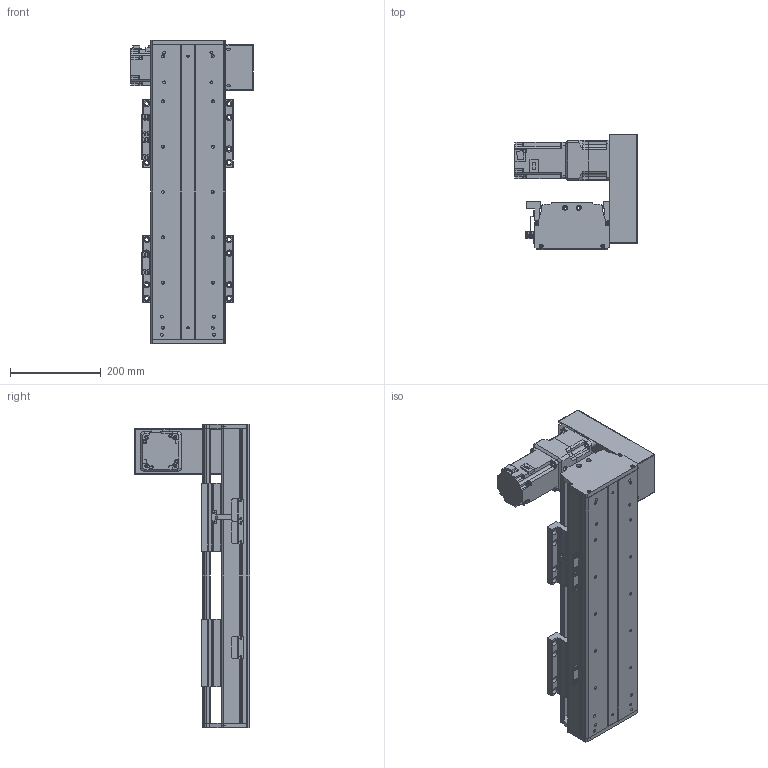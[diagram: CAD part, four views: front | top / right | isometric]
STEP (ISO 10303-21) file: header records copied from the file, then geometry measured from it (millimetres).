
FILE_DESCRIPTION(/* description */ (''),/* implementation_level */ '2;1');
FILE_NAME(/* name */ 'C:\Users\PC\Desktop\3D도면\STEP\새 폴더\DSB165-UR7G-W0300-L.stp',/* time_stamp */ '2018-06-25T15:12:48+09:00',/* author */ ('PC'),/* organization */ (''),/* preprocessor_version */ 'ST-DEVELOPER v16.5',/* originating_system */ 'Autodesk Inventor 2017',/* authorisation */ '');
FILE_SCHEMA (('AUTOMOTIVE_DESIGN { 1 0 10303 214 3 1 1 }'));
Length unit declared in the file: millimetre
Products named in the file (12): DSB165-UL7G-W0300-R_MIR; DSB165-BASE-L_MIR; hg-kr73__MIR; ab0901-p0401300102_MIR; 11-DSB165 BELT COVER_MIR; 12-DSB165-REAR COVER_MIR; 14-DSB165-FRONT COVER_MIR; DSB165-UP COVER_MIR; DSR165-SENSOR DOG_MIR; pm-y65_step_MIR; SENSOR BRACKET(EE-SX674A)_MIR; DSB165-TABLE(MSB20S)_MIR
Assembly tree (16 placements, depth 2):
  DSB165-UL7G-W0300-R_MIR
    DSB165-BASE-L_MIR
    hg-kr73__MIR
    ab0901-p0401300102_MIR
    11-DSB165 BELT COVER_MIR
    12-DSB165-REAR COVER_MIR
    14-DSB165-FRONT COVER_MIR
    DSB165-UP COVER_MIR
    DSR165-SENSOR DOG_MIR
    pm-y65_step_MIR  x3
    SENSOR BRACKET(EE-SX674A)_MIR  x3
    DSB165-TABLE(MSB20S)_MIR  x2
Bounding box: 270 x 254 x 670 mm (x, y, z)
Volume: 5669023.6 mm3; surface area: 1291620 mm2
Topology: 17 solids, 17 shells, 1625 faces, 4376 edges, 2890 vertices
Faces by surface type: plane 921, cylinder 598, cone 94, sphere 8, torus 4
Full cylindrical faces by diameter (mm): 2.459 x20, 3.5 x6, 4.134 x34, 4.5 x18, 5 x27, 5.5 x36, 5.9 x4, 6 x4, 6.6 x14, 6.647 x30, 6.8 x1, 7 x4, 7.6 x4, 8.4 x1, 8.5 x24, 8.7 x1, 9.5 x32, 11 x6, 14 x16, 19 x1, 22 x1, 24 x1, 25 x1, 28 x1, 67 x1, 70 x2, 80 x1
Entity records: 35248 total; most frequent: DIRECTION 6090, CARTESIAN_POINT 5943, ORIENTED_EDGE 5450, EDGE_CURVE 2725, AXIS2_PLACEMENT_3D 2215, VERTEX_POINT 1930, LINE 1660, VECTOR 1660
